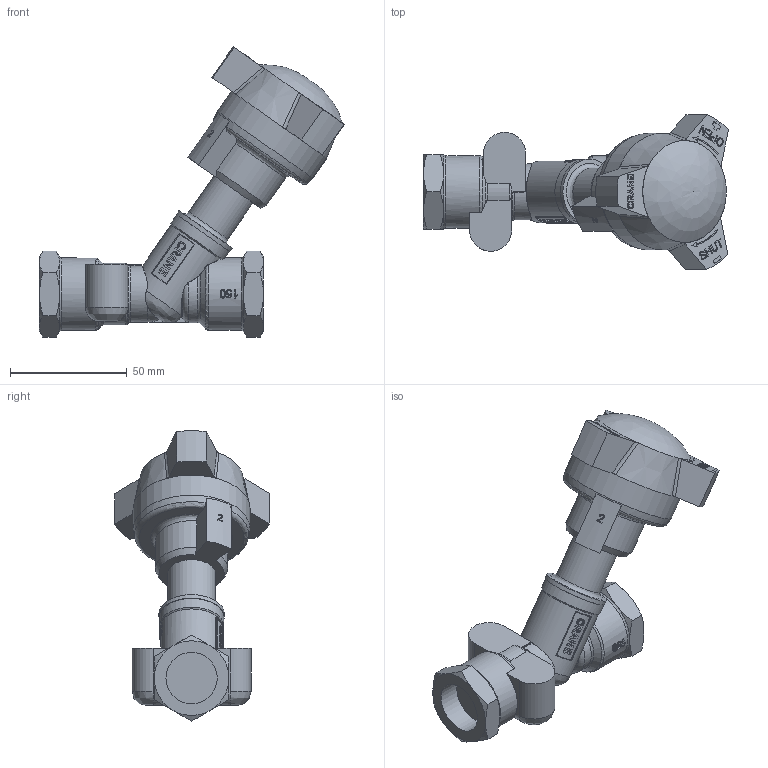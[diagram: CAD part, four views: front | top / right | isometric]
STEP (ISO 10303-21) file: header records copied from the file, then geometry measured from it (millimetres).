
FILE_DESCRIPTION((''),'2;1');
FILE_NAME('P:\Fastrack\53972_CRANE 3D\Workspace\CRANE\D921_3-4in\D921_3-4in.stp','2011-03-04T14:15:52',('btaylor'),(''),'Autodesk Inventor 2008','Autodesk Inventor 2008','');
FILE_SCHEMA(('AUTOMOTIVE_DESIGN { 1 0 10303 214 1 1 1 1 }'));
Length unit declared in the file: millimetre
Products named in the file (1): D921_3-4in
Bounding box: 130.74 x 66.44 x 124.49 mm (x, y, z)
Volume: 173530 mm3; surface area: 28973.3 mm2
Topology: 1 solids, 1 shells, 763 faces, 2057 edges, 1344 vertices
Faces by surface type: bspline 362, plane 301, cylinder 57, cone 34, torus 7, sphere 2
Full cylindrical faces by diameter (mm): 20.3 x1, 24 x1, 27.5 x1, 28 x1, 31 x2, 50 x1
Entity records: 77569 total; most frequent: CARTESIAN_POINT 60506, ORIENTED_EDGE 4038, DIRECTION 2176, EDGE_CURVE 2019, VERTEX_POINT 1326, VECTOR 930, LINE 930, EDGE_LOOP 829
